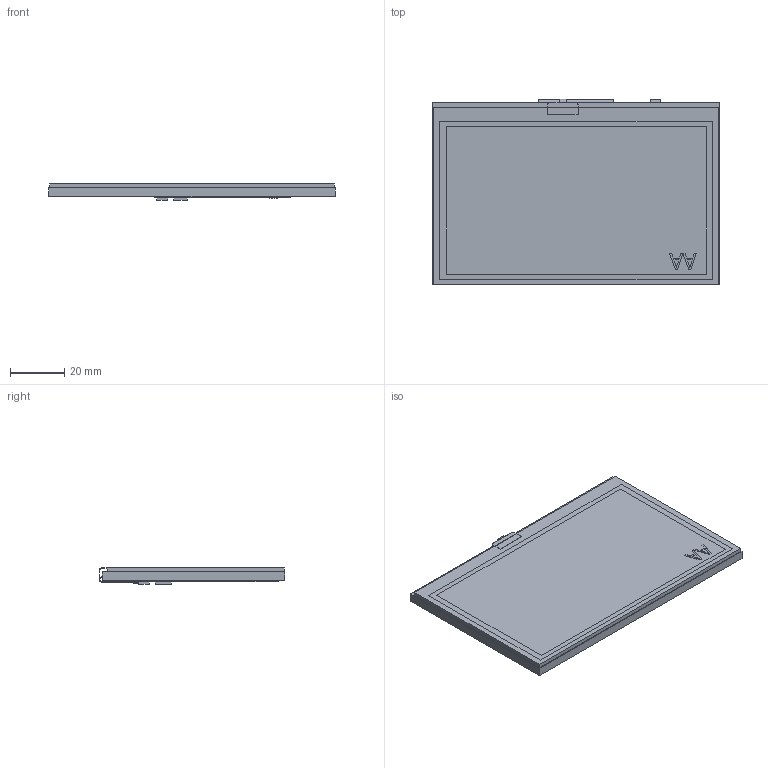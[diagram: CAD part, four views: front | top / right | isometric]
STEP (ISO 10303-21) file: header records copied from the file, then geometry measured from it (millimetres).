
FILE_DESCRIPTION(/* description */ (''),/* implementation_level */ '2;1');
FILE_NAME(/* name */ '',/* time_stamp */ '2022-06-03T15:01:00+08:00',/* author */ (''),/* organization */ (''),/* preprocessor_version */ 'ST-DEVELOPER v11',/* originating_system */ 'SIEMENS PLM Software NX 7.5',/* authorisation */ '');
FILE_SCHEMA (('AP203_CONFIGURATION_CONTROLLED_3D_DESIGN_OF_MECHANICAL_PARTS_AND_ASSEMBLIES_MIM_LF'));
Length unit declared in the file: millimetre
Products named in the file (1): 3D_SDWa043T63T_stp
Bounding box: 105.42 x 68.26 x 6.2 mm (x, y, z)
Volume: 32721.1 mm3; surface area: 50681.2 mm2
Topology: 54 solids, 54 shells, 396 faces, 855 edges, 571 vertices
Faces by surface type: plane 369, cylinder 23, extrusion 4
Entity records: 13573 total; most frequent: CARTESIAN_POINT 1874, ORIENTED_EDGE 1710, DIRECTION 1682, EDGE_CURVE 855, VECTOR 804, LINE 800, VERTEX_POINT 570, AXIS2_PLACEMENT_3D 439
